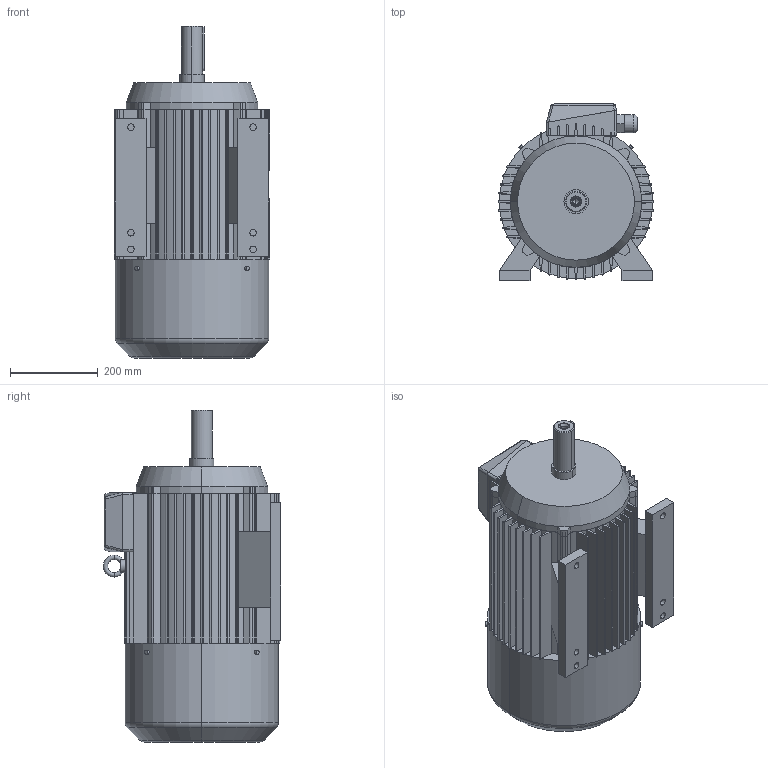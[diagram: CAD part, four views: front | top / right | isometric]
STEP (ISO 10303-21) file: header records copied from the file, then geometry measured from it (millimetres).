
FILE_DESCRIPTION (( 'STEP AP203' ), '1' );
FILE_NAME ('2SIE180L2,4A,6A.STEP', '2016-10-25T08:06:58', ( '' ), ( '' ), 'SwSTEP 2.0', 'SolidWorks 2003064', '' );
FILE_SCHEMA (( 'CONFIG_CONTROL_DESIGN' ));
Length unit declared in the file: millimetre
Products named in the file (1): 2SIE180L2,4A,6A
Bounding box: 354.99 x 405 x 758 mm (x, y, z)
Volume: 55389092.2 mm3; surface area: 2119237.8 mm2
Topology: 15 solids, 15 shells, 414 faces, 1083 edges, 693 vertices
Faces by surface type: plane 199, cylinder 181, torus 16, cone 14, sphere 4
Entity records: 13022 total; most frequent: CARTESIAN_POINT 2496, DIRECTION 2278, ORIENTED_EDGE 2154, EDGE_CURVE 1077, AXIS2_PLACEMENT_3D 811, VERTEX_POINT 693, LINE 656, VECTOR 656
